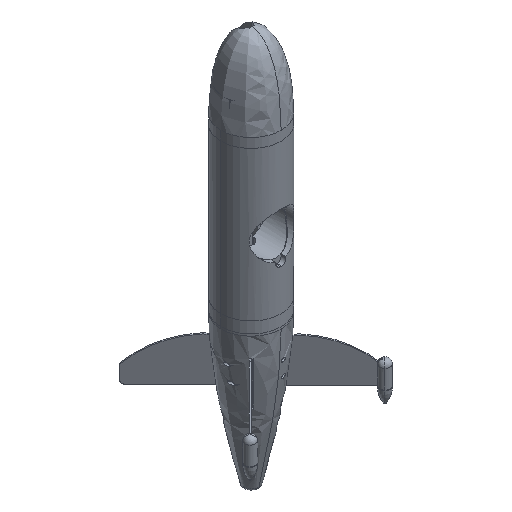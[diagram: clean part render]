
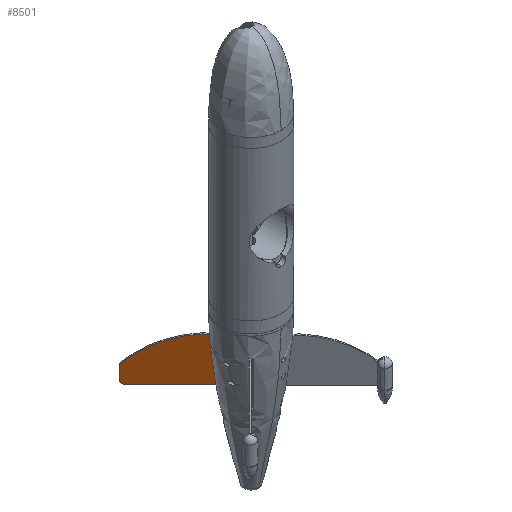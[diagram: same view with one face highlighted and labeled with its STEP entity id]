
A CAD part, isometric view. The second image highlights one B-rep face of the part: STEP entity #8501.
In plain terms, the highlighted planar face has unit normal (-0.707, -0.707, 0) as drawn and (1, 0, 0) by its records, which use the part's own axes.
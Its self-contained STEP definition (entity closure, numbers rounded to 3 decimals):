
#1902 = VERTEX_POINT ( 'NONE', #45255 ) ;
#2542 = CARTESIAN_POINT ( 'NONE',  ( 2.05, 90., 60. ) ) ;
#3265 = AXIS2_PLACEMENT_3D ( 'NONE', #49196, #10793, #55647 ) ;
#4726 = EDGE_LOOP ( 'NONE', ( #35992, #64680 ) ) ;
#4761 = VERTEX_POINT ( 'NONE', #5892 ) ;
#5892 = CARTESIAN_POINT ( 'NONE',  ( 2.05, -90.6, -32.25 ) ) ;
#6371 = DIRECTION ( 'NONE',  ( 1., 0., 0. ) ) ;
#7092 = CARTESIAN_POINT ( 'NONE',  ( 2.05, -100., 60. ) ) ;
#7821 = FACE_BOUND ( 'NONE', #38570, .T. ) ;
#8383 = CARTESIAN_POINT ( 'NONE',  ( 2.05, -100., 60. ) ) ;
#8501 = ADVANCED_FACE ( 'NONE', ( #7821, #43928, #74006 ), #72330, .F. ) ;
#8988 = VECTOR ( 'NONE', #55806, 1000. ) ;
#9087 = EDGE_LOOP ( 'NONE', ( #37372, #22460, #10431, #34899, #26143, #56850, #71938, #61451 ) ) ;
#9655 = VERTEX_POINT ( 'NONE', #45714 ) ;
#10431 = ORIENTED_EDGE ( 'NONE', *, *, #34447, .T. ) ;
#10793 = DIRECTION ( 'NONE',  ( 1., 0., 0. ) ) ;
#10855 = CIRCLE ( 'NONE', #35846, 250. ) ;
#10948 = CARTESIAN_POINT ( 'NONE',  ( 2.05, -100., -60. ) ) ;
#11173 = DIRECTION ( 'NONE',  ( 0., 0., 1. ) ) ;
#12063 = CIRCLE ( 'NONE', #3265, 10. ) ;
#12632 = CARTESIAN_POINT ( 'NONE',  ( 2.05, -61.9, -60. ) ) ;
#13388 = DIRECTION ( 'NONE',  ( 1., 0., 0. ) ) ;
#14290 = CARTESIAN_POINT ( 'NONE',  ( 2.05, -76.115, 189.596 ) ) ;
#15190 = VERTEX_POINT ( 'NONE', #78612 ) ;
#15427 = EDGE_CURVE ( 'NONE', #53062, #47038, #10855, .T. ) ;
#15660 = VERTEX_POINT ( 'NONE', #70392 ) ;
#17383 = CARTESIAN_POINT ( 'NONE',  ( 2.05, 100., 60. ) ) ;
#17972 = EDGE_CURVE ( 'NONE', #43888, #20100, #80637, .T. ) ;
#18477 = EDGE_CURVE ( 'NONE', #9655, #1902, #18604, .T. ) ;
#18604 = CIRCLE ( 'NONE', #67672, 2.9 ) ;
#18664 = VERTEX_POINT ( 'NONE', #78292 ) ;
#18976 = VERTEX_POINT ( 'NONE', #28465 ) ;
#20100 = VERTEX_POINT ( 'NONE', #51581 ) ;
#22460 = ORIENTED_EDGE ( 'NONE', *, *, #81755, .T. ) ;
#24042 = LINE ( 'NONE', #10948, #8988 ) ;
#24223 = DIRECTION ( 'NONE',  ( 1., 0., 0. ) ) ;
#24555 = DIRECTION ( 'NONE',  ( 1., 0., 0. ) ) ;
#24586 = AXIS2_PLACEMENT_3D ( 'NONE', #62649, #24223, #69098 ) ;
#26143 = ORIENTED_EDGE ( 'NONE', *, *, #68081, .T. ) ;
#26420 = DIRECTION ( 'NONE',  ( 0., -1., 0. ) ) ;
#27569 = CIRCLE ( 'NONE', #24586, 2.9 ) ;
#28465 = CARTESIAN_POINT ( 'NONE',  ( 2.05, -100., -21.9 ) ) ;
#29545 = AXIS2_PLACEMENT_3D ( 'NONE', #31550, #76359, #38016 ) ;
#30300 = DIRECTION ( 'NONE',  ( 0., 0., 1. ) ) ;
#30805 = ORIENTED_EDGE ( 'NONE', *, *, #58866, .F. ) ;
#31550 = CARTESIAN_POINT ( 'NONE',  ( 2.05, -93.5, -32.25 ) ) ;
#32659 = AXIS2_PLACEMENT_3D ( 'NONE', #63002, #24555, #69462 ) ;
#32692 = CARTESIAN_POINT ( 'NONE',  ( 2.05, -90., 60. ) ) ;
#33194 = DIRECTION ( 'NONE',  ( 1., 0., 0. ) ) ;
#33687 = LINE ( 'NONE', #7092, #65752 ) ;
#33833 = EDGE_CURVE ( 'NONE', #20100, #18976, #24042, .T. ) ;
#34447 = EDGE_CURVE ( 'NONE', #18664, #15660, #63095, .T. ) ;
#34899 = ORIENTED_EDGE ( 'NONE', *, *, #39066, .T. ) ;
#35846 = AXIS2_PLACEMENT_3D ( 'NONE', #14290, #52706, #30300 ) ;
#35992 = ORIENTED_EDGE ( 'NONE', *, *, #69339, .F. ) ;
#37372 = ORIENTED_EDGE ( 'NONE', *, *, #15427, .T. ) ;
#38016 = DIRECTION ( 'NONE',  ( 0., 1., 0. ) ) ;
#38570 = EDGE_LOOP ( 'NONE', ( #30805, #51313 ) ) ;
#39066 = EDGE_CURVE ( 'NONE', #15660, #46797, #44151, .T. ) ;
#40285 = DIRECTION ( 'NONE',  ( 1., 0., 0. ) ) ;
#41425 = CIRCLE ( 'NONE', #68266, 2.9 ) ;
#43125 = DIRECTION ( 'NONE',  ( 0., 0., 1. ) ) ;
#43888 = VERTEX_POINT ( 'NONE', #32692 ) ;
#43928 = FACE_BOUND ( 'NONE', #4726, .T. ) ;
#44151 = CIRCLE ( 'NONE', #32659, 10. ) ;
#44749 = CARTESIAN_POINT ( 'NONE',  ( 2.05, -93.5, -32.25 ) ) ;
#45255 = CARTESIAN_POINT ( 'NONE',  ( 2.05, -90.6, 12.75 ) ) ;
#45714 = CARTESIAN_POINT ( 'NONE',  ( 2.05, -96.4, 12.75 ) ) ;
#45828 = AXIS2_PLACEMENT_3D ( 'NONE', #71569, #33194, #77991 ) ;
#46021 = CARTESIAN_POINT ( 'NONE',  ( 2.05, -90., 50. ) ) ;
#46052 = VECTOR ( 'NONE', #43125, 1000. ) ;
#46797 = VERTEX_POINT ( 'NONE', #2542 ) ;
#46842 = DIRECTION ( 'NONE',  ( 0., 1., 0. ) ) ;
#47038 = VERTEX_POINT ( 'NONE', #63623 ) ;
#49196 = CARTESIAN_POINT ( 'NONE',  ( 2.05, 90., 16.374 ) ) ;
#51212 = DIRECTION ( 'NONE',  ( 0., 1., 0. ) ) ;
#51313 = ORIENTED_EDGE ( 'NONE', *, *, #18477, .F. ) ;
#51581 = CARTESIAN_POINT ( 'NONE',  ( 2.05, -100., 50. ) ) ;
#51986 = AXIS2_PLACEMENT_3D ( 'NONE', #8383, #53267, #59701 ) ;
#52706 = DIRECTION ( 'NONE',  ( 1., 0., 0. ) ) ;
#53062 = VERTEX_POINT ( 'NONE', #12632 ) ;
#53267 = DIRECTION ( 'NONE',  ( -1., 0., 0. ) ) ;
#54541 = CIRCLE ( 'NONE', #45828, 38.1 ) ;
#55647 = DIRECTION ( 'NONE',  ( 0., 0., 1. ) ) ;
#55806 = DIRECTION ( 'NONE',  ( 0., 0., -1. ) ) ;
#56850 = ORIENTED_EDGE ( 'NONE', *, *, #17972, .T. ) ;
#57498 = AXIS2_PLACEMENT_3D ( 'NONE', #46021, #13388, #11173 ) ;
#58866 = EDGE_CURVE ( 'NONE', #1902, #9655, #27569, .T. ) ;
#59206 = CIRCLE ( 'NONE', #29545, 2.9 ) ;
#59701 = DIRECTION ( 'NONE',  ( 0., 0., 1. ) ) ;
#61451 = ORIENTED_EDGE ( 'NONE', *, *, #65690, .T. ) ;
#62649 = CARTESIAN_POINT ( 'NONE',  ( 2.05, -93.5, 12.75 ) ) ;
#63002 = CARTESIAN_POINT ( 'NONE',  ( 2.05, 90., 50. ) ) ;
#63095 = LINE ( 'NONE', #17383, #46052 ) ;
#63623 = CARTESIAN_POINT ( 'NONE',  ( 2.05, 96.921, 9.156 ) ) ;
#64680 = ORIENTED_EDGE ( 'NONE', *, *, #81862, .F. ) ;
#65690 = EDGE_CURVE ( 'NONE', #18976, #53062, #54541, .T. ) ;
#65752 = VECTOR ( 'NONE', #26420, 1000. ) ;
#67672 = AXIS2_PLACEMENT_3D ( 'NONE', #80287, #40285, #46842 ) ;
#68081 = EDGE_CURVE ( 'NONE', #46797, #43888, #33687, .T. ) ;
#68266 = AXIS2_PLACEMENT_3D ( 'NONE', #44749, #6371, #51212 ) ;
#69098 = DIRECTION ( 'NONE',  ( 0., 1., 0. ) ) ;
#69339 = EDGE_CURVE ( 'NONE', #4761, #15190, #41425, .T. ) ;
#69462 = DIRECTION ( 'NONE',  ( 0., 0., 1. ) ) ;
#70392 = CARTESIAN_POINT ( 'NONE',  ( 2.05, 100., 50. ) ) ;
#71569 = CARTESIAN_POINT ( 'NONE',  ( 2.05, -61.9, -21.9 ) ) ;
#71938 = ORIENTED_EDGE ( 'NONE', *, *, #33833, .T. ) ;
#72330 = PLANE ( 'NONE',  #51986 ) ;
#74006 = FACE_OUTER_BOUND ( 'NONE', #9087, .T. ) ;
#76359 = DIRECTION ( 'NONE',  ( 1., 0., 0. ) ) ;
#77991 = DIRECTION ( 'NONE',  ( 0., 0., 1. ) ) ;
#78292 = CARTESIAN_POINT ( 'NONE',  ( 2.05, 100., 16.374 ) ) ;
#78612 = CARTESIAN_POINT ( 'NONE',  ( 2.05, -96.4, -32.25 ) ) ;
#80287 = CARTESIAN_POINT ( 'NONE',  ( 2.05, -93.5, 12.75 ) ) ;
#80637 = CIRCLE ( 'NONE', #57498, 10. ) ;
#81755 = EDGE_CURVE ( 'NONE', #47038, #18664, #12063, .T. ) ;
#81862 = EDGE_CURVE ( 'NONE', #15190, #4761, #59206, .T. ) ;
